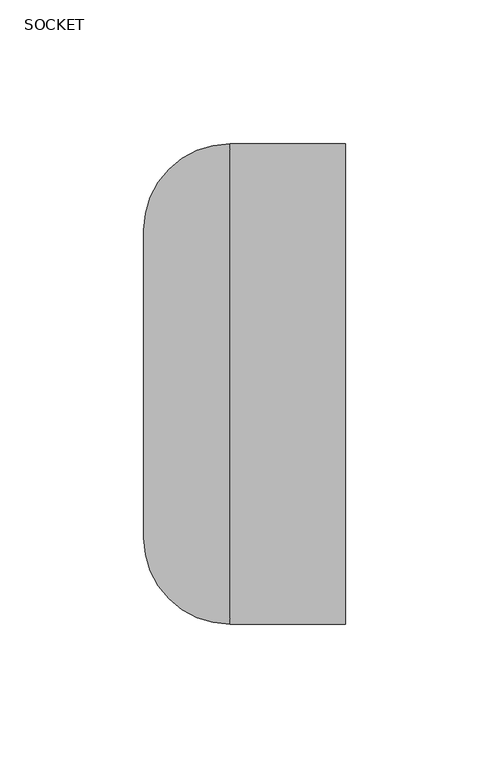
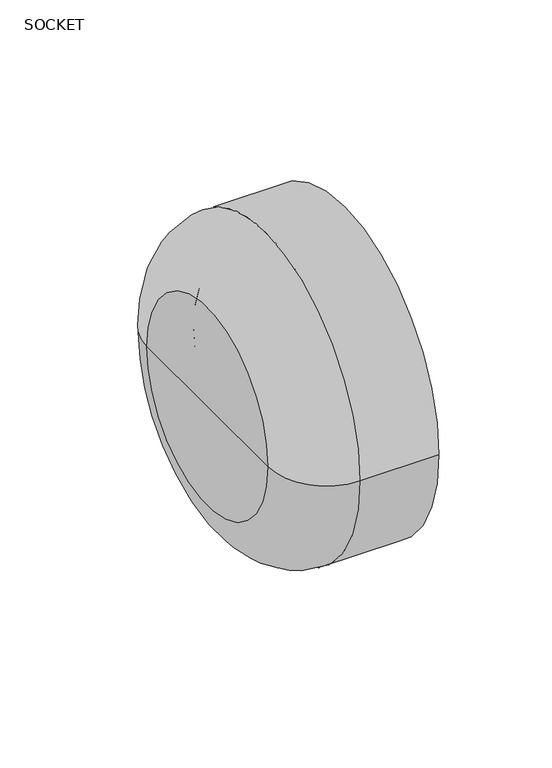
"""IFC4 building model written with IfcOpenShell, lengths in millimetres: pipe fitting geometry, Aquatherm - End Cap Socket : SOCKET."""

from ifc_helpers import new_model, si_unit, point, frame, origin, place, context, project, spatial, polyline, circle_curve, ellipse_curve, trimmed, source, transform, mapped, element, save
from ifc_brep_helpers import plane_surface, cylinder_surface, revolved_surface, advanced_brep


def socket_ee306b72(model_context):
    return source(origin(), model_context, "Body", "AdvancedBrep", [
        advanced_brep(
        [(-70.104, 0.0, 0.0), (-70.104, 53.467, 0.0), (-70.104, -53.467, 0.0), (-41.7686236, -62.484, 0.0), (-41.7686236, 62.484, 0.0), (-41.7686236, 58.1008236, 0.0), (-41.7686236, -58.1008236, 0.0), (0.0, -62.484, 0.0), (0.0, 62.484, 0.0), (0.0, -83.439, 0.0), (0.0, 83.439, 0.0), (-40.132, -83.439, 0.0), (-40.132, 83.439, 0.0), (-44.7658236, -55.1036236, 0.0), (-44.7658236, 55.1036236, 0.0), (-44.7658236, 0.0, 0.0)],
        [
            (0, 1),
            (1, 2, circle_curve(frame((-70.104, 0.0, 0.0), z_axis=(-1.0, 0.0, 0.0), x_axis=(0.0, 1.0, 0.0)), 53.467)),
            (2, 0),
            (2, 1, circle_curve(frame((-70.104, 0.0, 0.0), z_axis=(-1.0, 0.0, 0.0), x_axis=(0.0, 1.0, 0.0)), 53.467)),
            (3, 4, circle_curve(frame((-41.7686236, 0.0, 0.0), z_axis=(1.0, 0.0, 0.0), x_axis=(0.0, 1.0, 0.0)), 62.484)),
            (4, 5),
            (5, 6, circle_curve(frame((-41.7686236, 0.0, 0.0), z_axis=(-1.0, 0.0, 0.0), x_axis=(0.0, 1.0, 0.0)), 58.1008236)),
            (6, 3),
            (4, 3, circle_curve(frame((-41.7686236, 0.0, 0.0), z_axis=(1.0, 0.0, 0.0), x_axis=(0.0, 1.0, 0.0)), 62.484)),
            (6, 5, circle_curve(frame((-41.7686236, 0.0, 0.0), z_axis=(-1.0, 0.0, 0.0), x_axis=(0.0, 1.0, 0.0)), 58.1008236)),
            (7, 8, circle_curve(frame((0.0, 0.0, 0.0), z_axis=(1.0, 0.0, 0.0), x_axis=(0.0, 1.0, 0.0)), 62.484)),
            (8, 4),
            (3, 7),
            (8, 7, circle_curve(frame((0.0, 0.0, 0.0), z_axis=(1.0, 0.0, 0.0), x_axis=(0.0, 1.0, 0.0)), 62.484)),
            (9, 10, circle_curve(frame((0.0, 0.0, 0.0), z_axis=(1.0, 0.0, 0.0), x_axis=(0.0, 1.0, 0.0)), 83.439)),
            (10, 8),
            (7, 9),
            (10, 9, circle_curve(frame((0.0, 0.0, 0.0), z_axis=(1.0, 0.0, 0.0), x_axis=(0.0, 1.0, 0.0)), 83.439)),
            (11, 12, circle_curve(frame((-40.132, 0.0, 0.0), z_axis=(1.0, 0.0, 0.0), x_axis=(0.0, 1.0, 0.0)), 83.439)),
            (12, 10),
            (9, 11),
            (12, 11, circle_curve(frame((-40.132, 0.0, 0.0), z_axis=(1.0, 0.0, 0.0), x_axis=(0.0, 1.0, 0.0)), 83.439)),
            (1, 12, circle_curve(frame((-40.132, 53.467, 0.0), z_axis=(0.0, 0.0, -1.0), x_axis=(1.0, 0.0, 0.0)), 29.972)),
            (11, 2, circle_curve(frame((-40.132, -53.467, 0.0), z_axis=(0.0, 0.0, -1.0), x_axis=(1.0, 0.0, 0.0)), 29.972)),
            (13, 14, circle_curve(frame((-44.7658236, 0.0, 0.0), z_axis=(1.0, 0.0, 0.0), x_axis=(0.0, 1.0, 0.0)), 55.1036236)),
            (14, 15),
            (15, 13),
            (14, 13, circle_curve(frame((-44.7658236, 0.0, 0.0), z_axis=(1.0, 0.0, 0.0), x_axis=(0.0, 1.0, 0.0)), 55.1036236)),
            (5, 14, circle_curve(frame((-41.7686236, 55.1036236, 0.0), z_axis=(0.0, 0.0, 1.0), x_axis=(1.0, 0.0, 0.0)), 2.9972)),
            (13, 6, circle_curve(frame((-41.7686236, -55.1036236, 0.0), z_axis=(0.0, 0.0, 1.0), x_axis=(1.0, 0.0, 0.0)), 2.9972)),
        ],
        [
            plane_surface(frame((-70.104, 0.0, 0.0), z_axis=(-1.0, 0.0, 0.0), x_axis=(0.0, 1.0, 0.0))),
            plane_surface(frame((-41.7686236, 0.0, 0.0), z_axis=(1.0, 0.0, 0.0), x_axis=(0.0, 1.0, 0.0))),
            revolved_surface(polyline([(-41.7686236, 62.484, 0.0), (0.0, 62.484, 0.0)]), (-44.7658236, 0.0, 0.0), (-1.0, 0.0, 0.0)),
            plane_surface(frame((0.0, 0.0, 0.0), z_axis=(1.0, 0.0, 0.0), x_axis=(0.0, 1.0, 0.0))),
            cylinder_surface(frame((-44.7658236, 0.0, 0.0), z_axis=(-1.0, 0.0, 0.0), x_axis=(0.0, 1.0, 0.0)), 83.439),
            revolved_surface(trimmed(ellipse_curve(frame((-40.132, 53.467, 0.0), z_axis=(0.0, 0.0, 1.0), x_axis=(1.0, 0.0, 0.0)), 29.972, 29.972), [point((-40.132, 83.439, 0.0))], [point((-70.104, 53.467, 0.0))], True, "CARTESIAN"), (-44.7658236, 0.0, 0.0), (-1.0, 0.0, 0.0)),
            plane_surface(frame((-44.7658236, 0.0, 0.0), z_axis=(1.0, 0.0, 0.0), x_axis=(0.0, 1.0, 0.0))),
            revolved_surface(trimmed(ellipse_curve(frame((-41.7686236, 55.1036236, 0.0), z_axis=(0.0, 0.0, -1.0), x_axis=(1.0, 0.0, 0.0)), 2.9972, 2.9972), [point((-44.7658236, 55.1036236, 0.0))], [point((-41.7686236, 58.1008236, 0.0))], True, "CARTESIAN"), (-44.7658236, 0.0, 0.0), (-1.0, 0.0, 0.0)),
        ],
        [
            (0, [[1, 2, 3]]),
            (0, [[-3, 4, -1]]),
            (1, [[5, 6, 7, 8]]),
            (1, [[9, -8, 10, -6]]),
            (2, [[11, 12, -5, 13]]),
            (2, [[14, -13, -9, -12]]),
            (3, [[15, 16, -11, 17]]),
            (3, [[18, -17, -14, -16]]),
            (4, [[19, 20, -15, 21]]),
            (4, [[22, -21, -18, -20]]),
            (5, [[-2, 23, -19, 24]]),
            (5, [[-4, -24, -22, -23]]),
            (6, [[25, 26, 27]]),
            (6, [[28, -27, -26]]),
            (7, [[-7, 29, -25, 30]]),
            (7, [[-10, -30, -28, -29]]),
        ],
    ),
    ])


if __name__ == "__main__":
    model = new_model("IFC4")
    model_context = context("Model", 3, world=origin())
    ifc_project = project(units=[si_unit("LENGTHUNIT", "METRE", prefix="MILLI")], contexts=[model_context])
    site = spatial("IfcSite", under=ifc_project)
    building = spatial("IfcBuilding", under=site)
    placement = place(None, origin())
    ifc_socket_shape = socket_ee306b72(model_context)
    element("IfcPipeFitting", 1, ObjectType="Aquatherm - End Cap Socket : SOCKET", at=placement, inside=building, context=model_context, shape_type="MappedRepresentation", body=[
        mapped(ifc_socket_shape, transform((0.0, 0.0, 0.0), x_axis=(1.0, 0.0, 0.0), y_axis=(0.0, 1.0, 0.0), z_axis=(0.0, 0.0, 1.0))),
    ])
    save(model, "model.ifc")
